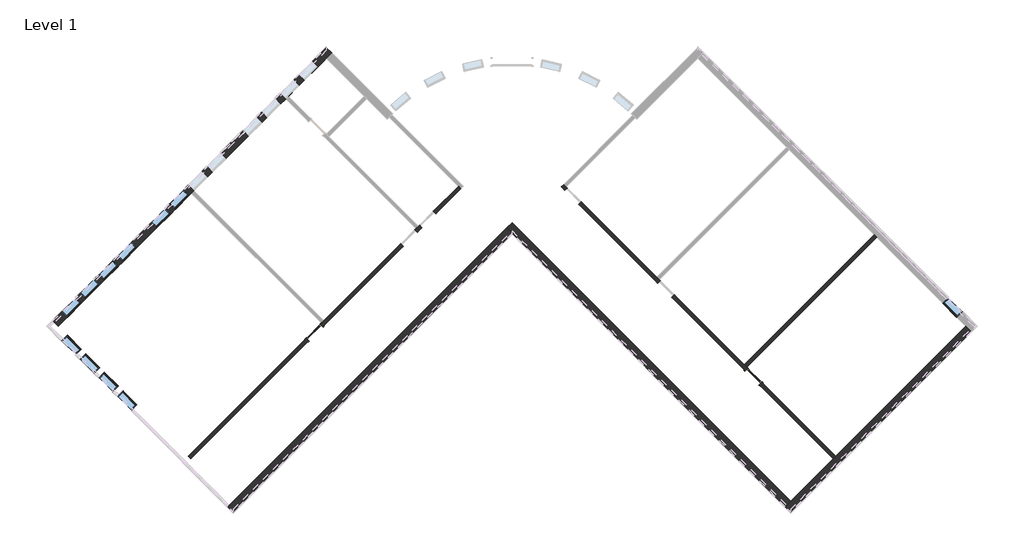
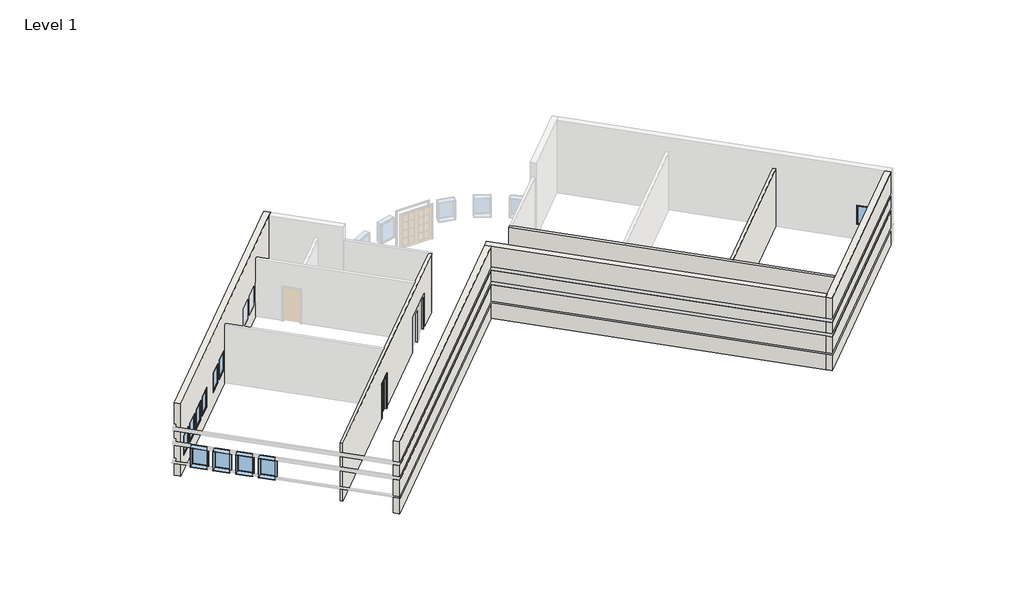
# One storey, part 1 of 3: 11 windows, 7 walls, 2 doors.
"""IFC4 building model written with IfcOpenShell, lengths in millimetres."""

from ifc_helpers import new_model, si_unit, origin, origin_with_axes, place, context, project, spatial, polyline, outline, extrude, faceted_brep, transform, mapped, element, save
from components import door_b81abb0e, door_5f5b55da, window_15c49d37, window_0e2fc6ce

model = new_model("IFC4")

# Units and contexts
model_context = context("Model", 3, world=origin())
ifc_project = project(units=[si_unit("LENGTHUNIT", "METRE", prefix="MILLI")], contexts=[model_context])

# Site, building, storey
site = spatial("IfcSite", under=ifc_project)
building = spatial("IfcBuilding", under=site)
storey = spatial("IfcBuildingStorey", under=building, Name="Level 1", Elevation=0.0)

# Doors
placement = place(None, origin())
door_shape = door_b81abb0e(model_context)
element("IfcDoor", 1, ObjectType="Single-Glass 1 : 36\" x 84\"", at=placement, inside=storey, context=model_context, shape_type="MappedRepresentation", body=[
    mapped(door_shape, transform((-12027.7718255, -1647.4849877, 0.0), x_axis=(0.7071067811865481, 0.7071067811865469, 0.0), y_axis=(-0.7071067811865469, 0.7071067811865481, 0.0), z_axis=(0.0, 0.0, 1.0))),
])
door_2_shape = door_5f5b55da(model_context)
element("IfcDoor", 2, ObjectType="Single-Glass 1 : 36\" x 84\"", at=placement, inside=storey, context=model_context, shape_type="MappedRepresentation", body=[
    mapped(door_2_shape, transform((8339.3312748, -3695.1011656, 0.0), x_axis=(-0.7071067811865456, 0.7071067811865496, 0.0), y_axis=(-0.7071067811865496, -0.7071067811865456, 0.0), z_axis=(0.0, 0.0, 1.0))),
])

# Walls
element("IfcWall", 3, ObjectType="Exterior - Split Face and CMU on Mtl. Stud", at=placement, inside=storey, context=model_context, shape_type="Brep", body=[
    faceted_brep([(18186.1821115, -1357.9895101, 0.0), (12149.2049342, -7394.9666875, 0.0), (12039.1967967, -7504.974825, 0.0), (10063.54045, -9480.6311716, 0.0), (9814.3383427, -9729.833279, 0.0), (9814.3383427, -9729.833279, 1016.0), (9879.4451996, -9664.7264221, 1016.0), (9879.4451996, -9664.7264221, 1085.85), (9814.3383427, -9729.833279, 1085.85), (9814.3383427, -9729.833279, 2133.6), (9879.4451996, -9664.7264221, 2133.6), (9879.4451996, -9664.7264221, 2336.8), (9814.3383427, -9729.833279, 2336.8), (9814.3383427, -9729.833279, 3048.0), (9879.4451996, -9664.7264221, 3048.0), (9879.4451996, -9664.7264221, 3251.2), (9814.3383427, -9729.833279, 3251.2), (9814.3383427, -9729.833279, 4572.0), (10063.54045, -9480.6311716, 4572.0), (18186.1821115, -1357.9895101, 4572.0), (18435.3842189, -1607.1916175, 4572.0), (10063.54045, -9979.0353863, 4572.0), (10063.54045, -9979.0353863, 3251.2), (18435.3842189, -1607.1916175, 3251.2), (10063.54045, -9979.0353863, 0.0), (18435.3842189, -1607.1916175, 0.0), (18435.3842189, -1607.1916175, 1016.0), (10063.54045, -9979.0353863, 1016.0), (10063.54045, -9979.0353863, 1085.85), (18435.3842189, -1607.1916175, 1085.85), (18435.3842189, -1607.1916175, 2133.6), (10063.54045, -9979.0353863, 2133.6), (10063.54045, -9979.0353863, 2336.8), (18435.3842189, -1607.1916175, 2336.8), (18435.3842189, -1607.1916175, 3048.0), (10063.54045, -9979.0353863, 3048.0), (9998.4335932, -9913.9285294, 0.0), (18370.277362, -1542.0847606, 3251.2), (18370.277362, -1542.0847606, 3048.0), (18370.277362, -1542.0847606, 2336.8), (18370.277362, -1542.0847606, 2133.6), (18370.277362, -1542.0847606, 1085.85), (18370.277362, -1542.0847606, 1016.0), (18370.277362, -1542.0847606, 0.0), (10063.54045, -9848.8216726, 1085.85), (10063.54045, -9848.8216726, 1016.0), (10063.54045, -9848.8216726, 2133.6), (10063.54045, -9848.8216726, 2336.8), (10063.54045, -9848.8216726, 3048.0), (10063.54045, -9848.8216726, 3251.2)], [[[0, 1, 2, 3, 4, 5, 6, 7, 8, 9, 10, 11, 12, 13, 14, 15, 16, 17, 18, 19]], [[20, 21, 22, 23]], [[24, 25, 26, 27]], [[28, 29, 30, 31]], [[32, 33, 34, 35]], [[19, 18, 17, 21, 20]], [[21, 17, 16, 22]], [[4, 36, 24, 27, 5]], [[8, 28, 31, 9]], [[12, 32, 35, 13]], [[0, 19, 20, 23, 37, 38, 34, 33, 39, 40, 30, 29, 41, 42, 26, 25, 43]], [[4, 3, 2, 1, 0, 43, 36]], [[43, 25, 24, 36]], [[7, 44, 41, 29, 28, 8]], [[42, 45, 6, 5, 27, 26]], [[44, 45, 42, 41]], [[45, 44, 7, 6]], [[40, 46, 10, 9, 31, 30]], [[11, 47, 39, 33, 32, 12]], [[47, 46, 40, 39]], [[46, 47, 11, 10]], [[38, 48, 14, 13, 35, 34]], [[15, 49, 37, 23, 22, 16]], [[49, 48, 38, 37]], [[48, 49, 15, 14]]]),
])
element("IfcWall", 4, ObjectType="Exterior - Split Face and CMU on Mtl. Stud", at=placement, inside=storey, context=model_context, shape_type="Brep", body=[
    faceted_brep([(10063.54045, -9480.6311716, 0.0), (-2868.0283643, 3450.9376427, 0.0), (-2868.0283643, 3450.9376427, 4572.0), (10063.54045, -9480.6311716, 4572.0), (9814.3383427, -9729.833279, 4572.0), (-2868.0283643, 2952.533428, 4572.0), (-3117.2304717, 3201.7355354, 4572.0), (-3117.2304717, 3201.7355354, 0.0), (-2868.0283643, 2952.533428, 0.0), (9814.3383427, -9729.833279, 0.0), (9814.3383427, -9729.833279, 1016.0), (-2868.0283643, 2952.533428, 1016.0), (-2933.1352212, 3017.6402849, 1016.0), (-2933.1352212, 3017.6402849, 1085.85), (-2868.0283643, 2952.533428, 1085.85), (9814.3383427, -9729.833279, 1085.85), (9814.3383427, -9729.833279, 2133.6), (-2868.0283643, 2952.533428, 2133.6), (-2933.1352212, 3017.6402849, 2133.6), (-2933.1352212, 3017.6402849, 2336.8), (-2868.0283643, 2952.533428, 2336.8), (9814.3383427, -9729.833279, 2336.8), (9814.3383427, -9729.833279, 3048.0), (-2868.0283643, 2952.533428, 3048.0), (-2933.1352212, 3017.6402849, 3048.0), (-2933.1352212, 3017.6402849, 3251.2), (-2868.0283643, 2952.533428, 3251.2), (9814.3383427, -9729.833279, 3251.2), (-3052.1236148, 3266.8423923, 0.0), (9879.4451996, -9664.7264221, 3251.2), (9879.4451996, -9664.7264221, 3048.0), (9879.4451996, -9664.7264221, 2336.8), (9879.4451996, -9664.7264221, 2133.6), (9879.4451996, -9664.7264221, 1085.85), (9879.4451996, -9664.7264221, 1016.0), (9879.4451996, -9664.7264221, 0.0), (-2868.0283643, 3082.7471418, 1085.85), (-2868.0283643, 3082.7471418, 1016.0), (-2868.0283643, 3082.7471418, 2133.6), (-2868.0283643, 3082.7471418, 2336.8), (-2868.0283643, 3082.7471418, 3048.0), (-2868.0283643, 3082.7471418, 3251.2)], [[[0, 1, 2, 3]], [[4, 5, 6, 7, 8, 9, 10, 11, 12, 13, 14, 15, 16, 17, 18, 19, 20, 21, 22, 23, 24, 25, 26, 27]], [[3, 2, 6, 5, 4]], [[2, 1, 28, 7, 6]], [[0, 3, 4, 27, 29, 30, 22, 21, 31, 32, 16, 15, 33, 34, 10, 9, 35]], [[1, 0, 35, 28]], [[35, 9, 8, 7, 28]], [[13, 36, 33, 15, 14]], [[34, 37, 12, 11, 10]], [[36, 37, 34, 33]], [[37, 36, 13, 12]], [[32, 38, 18, 17, 16]], [[19, 39, 31, 21, 20]], [[39, 38, 32, 31]], [[38, 39, 19, 18]], [[30, 40, 24, 23, 22]], [[25, 41, 29, 27, 26]], [[41, 40, 30, 29]], [[40, 41, 25, 24]]]),
])
element("IfcWall", 5, ObjectType="Exterior - Split Face and CMU on Mtl. Stud", at=placement, inside=storey, context=model_context, shape_type="Brep", body=[
    faceted_brep([(-3117.2304717, 3201.7355354, 0.0), (-15799.5971786, -9480.6311716, 0.0), (-16048.799286, -9729.833279, 0.0), (-16048.799286, -9729.833279, 1016.0), (-15983.6924291, -9664.7264221, 1016.0), (-15983.6924291, -9664.7264221, 1085.85), (-16048.799286, -9729.833279, 1085.85), (-16048.799286, -9729.833279, 2133.6), (-15983.6924291, -9664.7264221, 2133.6), (-15983.6924291, -9664.7264221, 2336.8), (-16048.799286, -9729.833279, 2336.8), (-16048.799286, -9729.833279, 3048.0), (-15983.6924291, -9664.7264221, 3048.0), (-15983.6924291, -9664.7264221, 3251.2), (-16048.799286, -9729.833279, 3251.2), (-16048.799286, -9729.833279, 4572.0), (-15799.5971786, -9480.6311716, 4572.0), (-3117.2304717, 3201.7355354, 4572.0), (-2868.0283643, 2952.533428, 4572.0), (-15799.5971786, -9979.0353863, 4572.0), (-15799.5971786, -9979.0353863, 3251.2), (-2868.0283643, 2952.533428, 3251.2), (-15799.5971786, -9979.0353863, 0.0), (-2868.0283643, 2952.533428, 0.0), (-2868.0283643, 2952.533428, 1016.0), (-15799.5971786, -9979.0353863, 1016.0), (-15799.5971786, -9979.0353863, 1085.85), (-2868.0283643, 2952.533428, 1085.85), (-2868.0283643, 2952.533428, 2133.6), (-15799.5971786, -9979.0353863, 2133.6), (-15799.5971786, -9979.0353863, 2336.8), (-2868.0283643, 2952.533428, 2336.8), (-2868.0283643, 2952.533428, 3048.0), (-15799.5971786, -9979.0353863, 3048.0), (-15864.7040355, -9913.9285294, 0.0), (-2933.1352212, 3017.6402849, 3251.2), (-2933.1352212, 3017.6402849, 3048.0), (-2933.1352212, 3017.6402849, 2336.8), (-2933.1352212, 3017.6402849, 2133.6), (-2933.1352212, 3017.6402849, 1085.85), (-2933.1352212, 3017.6402849, 1016.0), (-2933.1352212, 3017.6402849, 0.0), (-15799.5971786, -9848.8216726, 1085.85), (-15799.5971786, -9848.8216726, 1016.0), (-15799.5971786, -9848.8216726, 2133.6), (-15799.5971786, -9848.8216726, 2336.8), (-15799.5971786, -9848.8216726, 3048.0), (-15799.5971786, -9848.8216726, 3251.2)], [[[0, 1, 2, 3, 4, 5, 6, 7, 8, 9, 10, 11, 12, 13, 14, 15, 16, 17]], [[18, 19, 20, 21]], [[22, 23, 24, 25]], [[26, 27, 28, 29]], [[30, 31, 32, 33]], [[17, 16, 15, 19, 18]], [[19, 15, 14, 20]], [[2, 34, 22, 25, 3]], [[6, 26, 29, 7]], [[10, 30, 33, 11]], [[0, 17, 18, 21, 35, 36, 32, 31, 37, 38, 28, 27, 39, 40, 24, 23, 41]], [[2, 1, 0, 41, 34]], [[41, 23, 22, 34]], [[5, 42, 39, 27, 26, 6]], [[40, 43, 4, 3, 25, 24]], [[42, 43, 40, 39]], [[43, 42, 5, 4]], [[38, 44, 8, 7, 29, 28]], [[9, 45, 37, 31, 30, 10]], [[45, 44, 38, 37]], [[44, 45, 9, 8]], [[36, 46, 12, 11, 33, 32]], [[13, 47, 35, 21, 20, 14]], [[47, 46, 36, 35]], [[46, 47, 13, 12]]]),
])
element("IfcWall", 6, ObjectType="Exterior - Split Face and CMU on Mtl. Stud", at=placement, inside=storey, context=model_context, shape_type="Brep", body=[
    faceted_brep([(-23922.2388402, -1357.9895101, 0.0), (-17743.7048466, 4820.5444835, 0.0), (-17633.6967091, 4930.552621, 0.0), (-13359.2125777, 9205.0367523, 0.0), (-13249.2044403, 9315.0448898, 0.0), (-11489.0742405, 11075.1750895, 0.0), (-11239.8721332, 11324.3771969, 0.0), (-11239.8721332, 11324.3771969, 1016.0), (-11304.9789901, 11259.27034, 1016.0), (-11304.9789901, 11259.27034, 1085.85), (-11239.8721332, 11324.3771969, 1085.85), (-11239.8721332, 11324.3771969, 2133.6), (-11304.9789901, 11259.27034, 2133.6), (-11304.9789901, 11259.27034, 2336.8), (-11239.8721332, 11324.3771969, 2336.8), (-11239.8721332, 11324.3771969, 3048.0), (-11304.9789901, 11259.27034, 3048.0), (-11304.9789901, 11259.27034, 3251.2), (-11239.8721332, 11324.3771969, 3251.2), (-11239.8721332, 11324.3771969, 4572.0), (-11489.0742405, 11075.1750895, 4572.0), (-23922.2388402, -1357.9895101, 4572.0), (-23508.0245266, -943.7751965, 914.4), (-23508.0245266, -943.7751965, 2133.6), (-22861.4460859, -297.1967558, 2133.6), (-22861.4460859, -297.1967558, 914.4), (-22645.9199389, -81.6706089, 914.4), (-22645.9199389, -81.6706089, 2133.6), (-21999.3414982, 564.9078318, 2133.6), (-21999.3414982, 564.9078318, 914.4), (-20921.7107637, 1642.5385664, 914.4), (-20921.7107637, 1642.5385664, 2133.6), (-20275.132323, 2289.1170071, 2133.6), (-20275.132323, 2289.1170071, 914.4), (-21783.8153513, 780.4339787, 914.4), (-21783.8153513, 780.4339787, 2133.6), (-21137.2369106, 1427.0124195, 2133.6), (-21137.2369106, 1427.0124195, 914.4), (-11869.3770291, 10694.8723009, 2133.6), (-11869.3770291, 10694.8723009, 914.4), (-12515.9554698, 10048.2938602, 914.4), (-12515.9554698, 10048.2938602, 2133.6), (-12731.4816167, 9832.7677133, 2133.6), (-12731.4816167, 9832.7677133, 914.4), (-13378.0600575, 9186.1892726, 914.4), (-13378.0600575, 9186.1892726, 2133.6), (-13593.5862044, 8970.6631257, 2133.6), (-13593.5862044, 8970.6631257, 914.4), (-14240.1646451, 8324.084685, 914.4), (-14240.1646451, 8324.084685, 2133.6), (-14455.690792, 8108.5585381, 2133.6), (-14455.690792, 8108.5585381, 914.4), (-15102.2692327, 7461.9800974, 914.4), (-15102.2692327, 7461.9800974, 2133.6), (-19359.6176228, 3204.6317073, 914.4), (-19359.6176228, 3204.6317073, 2133.6), (-18713.0391821, 3851.210148, 2133.6), (-18713.0391821, 3851.210148, 914.4), (-18497.5130352, 4066.7362949, 914.4), (-18497.5130352, 4066.7362949, 2133.6), (-17850.9345944, 4713.3147356, 2133.6), (-17850.9345944, 4713.3147356, 914.4), (-17635.4084475, 4928.8408825, 914.4), (-17635.4084475, 4928.8408825, 2133.6), (-16988.8300068, 5575.4193232, 2133.6), (-16988.8300068, 5575.4193232, 914.4), (-16773.3038599, 5790.9454701, 914.4), (-16773.3038599, 5790.9454701, 2133.6), (-16126.7254192, 6437.5239109, 2133.6), (-16126.7254192, 6437.5239109, 914.4), (-24171.4409475, -1108.7874027, 4572.0), (-11489.0742405, 11573.5793042, 4572.0), (-11489.0742405, 11573.5793042, 3251.2), (-24171.4409475, -1108.7874027, 3251.2), (-11489.0742405, 11573.5793042, 0.0), (-24171.4409475, -1108.7874027, 0.0), (-24171.4409475, -1108.7874027, 1016.0), (-23757.2266339, -694.5730891, 1016.0), (-23757.2266339, -694.5730891, 914.4), (-23110.6481932, -47.9946484, 914.4), (-23110.6481932, -47.9946484, 1016.0), (-22895.1220463, 167.5314985, 1016.0), (-22895.1220463, 167.5314985, 914.4), (-22248.5436056, 814.1099392, 914.4), (-22248.5436056, 814.1099392, 1016.0), (-22033.0174587, 1029.6360861, 1016.0), (-22033.0174587, 1029.6360861, 914.4), (-21386.439018, 1676.2145268, 914.4), (-21386.439018, 1676.2145268, 1016.0), (-21170.9128711, 1891.7406737, 1016.0), (-21170.9128711, 1891.7406737, 914.4), (-20524.3344303, 2538.3191144, 914.4), (-20524.3344303, 2538.3191144, 1016.0), (-19608.8197301, 3453.8338146, 1016.0), (-19608.8197301, 3453.8338146, 914.4), (-18962.2412894, 4100.4122553, 914.4), (-18962.2412894, 4100.4122553, 1016.0), (-18746.7151425, 4315.9384023, 1016.0), (-18746.7151425, 4315.9384023, 914.4), (-18100.1367018, 4962.516843, 914.4), (-18100.1367018, 4962.516843, 1016.0), (-17884.6105549, 5178.0429899, 1016.0), (-17884.6105549, 5178.0429899, 914.4), (-17238.0321142, 5824.6214306, 914.4), (-17238.0321142, 5824.6214306, 1016.0), (-17022.5059673, 6040.1475775, 1016.0), (-17022.5059673, 6040.1475775, 914.4), (-16375.9275266, 6686.7260182, 914.4), (-16375.9275266, 6686.7260182, 1016.0), (-15351.4713401, 7711.1822047, 1016.0), (-15351.4713401, 7711.1822047, 914.4), (-14704.8928993, 8357.7606454, 914.4), (-14704.8928993, 8357.7606454, 1016.0), (-14489.3667524, 8573.2867923, 1016.0), (-14489.3667524, 8573.2867923, 914.4), (-13842.7883117, 9219.8652331, 914.4), (-13842.7883117, 9219.8652331, 1016.0), (-13627.2621648, 9435.39138, 1016.0), (-13627.2621648, 9435.39138, 914.4), (-12980.6837241, 10081.9698207, 914.4), (-12980.6837241, 10081.9698207, 1016.0), (-12765.1575772, 10297.4959676, 1016.0), (-12765.1575772, 10297.4959676, 914.4), (-12118.5791365, 10944.0744083, 914.4), (-12118.5791365, 10944.0744083, 1016.0), (-11489.0742405, 11573.5793042, 1016.0), (-23110.6481932, -47.9946484, 2133.6), (-23757.2266339, -694.5730891, 2133.6), (-23757.2266339, -694.5730891, 2336.8), (-24171.4409475, -1108.7874027, 2336.8), (-24171.4409475, -1108.7874027, 3048.0), (-11489.0742405, 11573.5793042, 3048.0), (-11489.0742405, 11573.5793042, 2336.8), (-12118.5791365, 10944.0744083, 2336.8), (-12118.5791365, 10944.0744083, 2133.6), (-12765.1575772, 10297.4959676, 2133.6), (-12765.1575772, 10297.4959676, 2336.8), (-12980.6837241, 10081.9698207, 2336.8), (-12980.6837241, 10081.9698207, 2133.6), (-13627.2621648, 9435.39138, 2133.6), (-13627.2621648, 9435.39138, 2336.8), (-13842.7883117, 9219.8652331, 2336.8), (-13842.7883117, 9219.8652331, 2133.6), (-14489.3667524, 8573.2867923, 2133.6), (-14489.3667524, 8573.2867923, 2336.8), (-14704.8928993, 8357.7606454, 2336.8), (-14704.8928993, 8357.7606454, 2133.6), (-15351.4713401, 7711.1822047, 2133.6), (-15351.4713401, 7711.1822047, 2336.8), (-16375.9275266, 6686.7260182, 2336.8), (-16375.9275266, 6686.7260182, 2133.6), (-17022.5059673, 6040.1475775, 2133.6), (-17022.5059673, 6040.1475775, 2336.8), (-17238.0321142, 5824.6214306, 2336.8), (-17238.0321142, 5824.6214306, 2133.6), (-17884.6105549, 5178.0429899, 2133.6), (-17884.6105549, 5178.0429899, 2336.8), (-18100.1367018, 4962.516843, 2336.8), (-18100.1367018, 4962.516843, 2133.6), (-18746.7151425, 4315.9384023, 2133.6), (-18746.7151425, 4315.9384023, 2336.8), (-18962.2412894, 4100.4122553, 2336.8), (-18962.2412894, 4100.4122553, 2133.6), (-19608.8197301, 3453.8338146, 2133.6), (-19608.8197301, 3453.8338146, 2336.8), (-20524.3344303, 2538.3191144, 2336.8), (-20524.3344303, 2538.3191144, 2133.6), (-21170.9128711, 1891.7406737, 2133.6), (-21170.9128711, 1891.7406737, 2336.8), (-21386.439018, 1676.2145268, 2336.8), (-21386.439018, 1676.2145268, 2133.6), (-22033.0174587, 1029.6360861, 2133.6), (-22033.0174587, 1029.6360861, 2336.8), (-22248.5436056, 814.1099392, 2336.8), (-22248.5436056, 814.1099392, 2133.6), (-22895.1220463, 167.5314985, 2133.6), (-22895.1220463, 167.5314985, 2336.8), (-23110.6481932, -47.9946484, 2336.8), (-23757.2266339, -694.5730891, 1085.85), (-24171.4409475, -1108.7874027, 1085.85), (-24171.4409475, -1108.7874027, 2133.6), (-23110.6481932, -47.9946484, 1085.85), (-22895.1220463, 167.5314985, 1085.85), (-22248.5436056, 814.1099392, 1085.85), (-22033.0174587, 1029.6360861, 1085.85), (-21170.9128711, 1891.7406737, 1085.85), (-21386.439018, 1676.2145268, 1085.85), (-20524.3344303, 2538.3191144, 1085.85), (-19608.8197301, 3453.8338146, 1085.85), (-12765.1575772, 10297.4959676, 1085.85), (-12980.6837241, 10081.9698207, 1085.85), (-12118.5791365, 10944.0744083, 1085.85), (-11489.0742405, 11573.5793042, 2133.6), (-11489.0742405, 11573.5793042, 1085.85), (-13627.2621648, 9435.39138, 1085.85), (-13842.7883117, 9219.8652331, 1085.85), (-14489.3667524, 8573.2867923, 1085.85), (-14704.8928993, 8357.7606454, 1085.85), (-15351.4713401, 7711.1822047, 1085.85), (-16375.9275266, 6686.7260182, 1085.85), (-18962.2412894, 4100.4122553, 1085.85), (-18746.7151425, 4315.9384023, 1085.85), (-18100.1367018, 4962.516843, 1085.85), (-17884.6105549, 5178.0429899, 1085.85), (-17238.0321142, 5824.6214306, 1085.85), (-17022.5059673, 6040.1475775, 1085.85), (-11423.9673837, 11508.4724474, 0.0), (-24106.3340906, -1173.8942596, 3251.2), (-24106.3340906, -1173.8942596, 3048.0), (-24106.3340906, -1173.8942596, 2336.8), (-24106.3340906, -1173.8942596, 2133.6), (-24106.3340906, -1173.8942596, 1085.85), (-24106.3340906, -1173.8942596, 1016.0), (-24106.3340906, -1173.8942596, 0.0), (-23692.119777, -759.679946, 1016.0), (-23692.119777, -759.679946, 1085.85), (-23692.119777, -759.679946, 2133.6), (-23045.5413363, -113.1015053, 2133.6), (-23045.5413363, -113.1015053, 1085.85), (-23045.5413363, -113.1015053, 1016.0), (-22830.0151894, 102.4246416, 1016.0), (-22830.0151894, 102.4246416, 1085.85), (-22830.0151894, 102.4246416, 2133.6), (-22183.4367487, 749.0030823, 2133.6), (-22183.4367487, 749.0030823, 1085.85), (-22183.4367487, 749.0030823, 1016.0), (-21105.8060142, 1826.6338168, 1016.0), (-21105.8060142, 1826.6338168, 1085.85), (-21105.8060142, 1826.6338168, 2133.6), (-20459.2275735, 2473.2122576, 2133.6), (-20459.2275735, 2473.2122576, 1085.85), (-20459.2275735, 2473.2122576, 1016.0), (-21967.9106018, 964.5292292, 1016.0), (-21967.9106018, 964.5292292, 1085.85), (-21967.9106018, 964.5292292, 2133.6), (-21321.3321611, 1611.1076699, 2133.6), (-21321.3321611, 1611.1076699, 1085.85), (-21321.3321611, 1611.1076699, 1016.0), (-12053.4722796, 10878.9675514, 2133.6), (-12053.4722796, 10878.9675514, 1085.85), (-12053.4722796, 10878.9675514, 1016.0), (-12700.0507203, 10232.3891107, 1016.0), (-12700.0507203, 10232.3891107, 1085.85), (-12700.0507203, 10232.3891107, 2133.6), (-12915.5768672, 10016.8629638, 2133.6), (-12915.5768672, 10016.8629638, 1085.85), (-12915.5768672, 10016.8629638, 1016.0), (-13562.1553079, 9370.2845231, 1016.0), (-13562.1553079, 9370.2845231, 1085.85), (-13562.1553079, 9370.2845231, 2133.6), (-13777.6814548, 9154.7583762, 2133.6), (-13777.6814548, 9154.7583762, 1085.85), (-13777.6814548, 9154.7583762, 1016.0), (-14424.2598956, 8508.1799355, 1016.0), (-14424.2598956, 8508.1799355, 1085.85), (-14424.2598956, 8508.1799355, 2133.6), (-14639.7860425, 8292.6537886, 2133.6), (-14639.7860425, 8292.6537886, 1085.85), (-14639.7860425, 8292.6537886, 1016.0), (-15286.3644832, 7646.0753478, 1016.0), (-15286.3644832, 7646.0753478, 1085.85), (-15286.3644832, 7646.0753478, 2133.6), (-19543.7128733, 3388.7269578, 1016.0), (-19543.7128733, 3388.7269578, 1085.85), (-19543.7128733, 3388.7269578, 2133.6), (-18897.1344326, 4035.3053985, 2133.6), (-18897.1344326, 4035.3053985, 1085.85), (-18897.1344326, 4035.3053985, 1016.0), (-18681.6082856, 4250.8315454, 1016.0), (-18681.6082856, 4250.8315454, 1085.85), (-18681.6082856, 4250.8315454, 2133.6), (-18035.0298449, 4897.4099861, 2133.6), (-18035.0298449, 4897.4099861, 1085.85), (-18035.0298449, 4897.4099861, 1016.0), (-17819.503698, 5112.936133, 1016.0), (-17819.503698, 5112.936133, 1085.85), (-17819.503698, 5112.936133, 2133.6), (-17172.9252573, 5759.5145737, 2133.6), (-17172.9252573, 5759.5145737, 1085.85), (-17172.9252573, 5759.5145737, 1016.0), (-16957.3991104, 5975.0407206, 1016.0), (-16957.3991104, 5975.0407206, 1085.85), (-16957.3991104, 5975.0407206, 2133.6), (-16310.8206697, 6621.6191613, 2133.6), (-16310.8206697, 6621.6191613, 1085.85), (-16310.8206697, 6621.6191613, 1016.0), (-11489.0742405, 11443.3655905, 1085.85), (-11489.0742405, 11443.3655905, 1016.0), (-23692.119777, -759.679946, 2133.6), (-23692.119777, -759.679946, 2336.8), (-23045.5413363, -113.1015053, 2133.6), (-23045.5413363, -113.1015053, 2336.8), (-22830.0151894, 102.4246416, 2336.8), (-22830.0151894, 102.4246416, 2133.6), (-22183.4367487, 749.0030823, 2133.6), (-22183.4367487, 749.0030823, 2336.8), (-21967.9106018, 964.5292292, 2336.8), (-21967.9106018, 964.5292292, 2133.6), (-21321.3321611, 1611.1076699, 2133.6), (-21321.3321611, 1611.1076699, 2336.8), (-21105.8060142, 1826.6338168, 2336.8), (-21105.8060142, 1826.6338168, 2133.6), (-20459.2275735, 2473.2122576, 2133.6), (-20459.2275735, 2473.2122576, 2336.8), (-19543.7128733, 3388.7269578, 2336.8), (-19543.7128733, 3388.7269578, 2133.6), (-18897.1344326, 4035.3053985, 2133.6), (-18897.1344326, 4035.3053985, 2336.8), (-18681.6082856, 4250.8315454, 2336.8), (-18681.6082856, 4250.8315454, 2133.6), (-18035.0298449, 4897.4099861, 2133.6), (-18035.0298449, 4897.4099861, 2336.8), (-17819.503698, 5112.936133, 2336.8), (-17819.503698, 5112.936133, 2133.6), (-17172.9252573, 5759.5145737, 2133.6), (-17172.9252573, 5759.5145737, 2336.8), (-16957.3991104, 5975.0407206, 2336.8), (-16957.3991104, 5975.0407206, 2133.6), (-16310.8206697, 6621.6191613, 2133.6), (-16310.8206697, 6621.6191613, 2336.8), (-15286.3644832, 7646.0753478, 2336.8), (-15286.3644832, 7646.0753478, 2133.6), (-14639.7860425, 8292.6537886, 2133.6), (-14639.7860425, 8292.6537886, 2336.8), (-14424.2598956, 8508.1799355, 2336.8), (-14424.2598956, 8508.1799355, 2133.6), (-13777.6814548, 9154.7583762, 2133.6), (-13777.6814548, 9154.7583762, 2336.8), (-13562.1553079, 9370.2845231, 2336.8), (-13562.1553079, 9370.2845231, 2133.6), (-12915.5768672, 10016.8629638, 2133.6), (-12915.5768672, 10016.8629638, 2336.8), (-12700.0507203, 10232.3891107, 2336.8), (-12700.0507203, 10232.3891107, 2133.6), (-12053.4722796, 10878.9675514, 2133.6), (-12053.4722796, 10878.9675514, 2336.8), (-11489.0742405, 11443.3655905, 2133.6), (-11489.0742405, 11443.3655905, 2336.8), (-11489.0742405, 11443.3655905, 3048.0), (-11489.0742405, 11443.3655905, 3251.2)], [[[0, 1, 2, 3, 4, 5, 6, 7, 8, 9, 10, 11, 12, 13, 14, 15, 16, 17, 18, 19, 20, 21], [22, 23, 24, 25], [26, 27, 28, 29], [30, 31, 32, 33], [34, 35, 36, 37], [38, 39, 40, 41], [42, 43, 44, 45], [46, 47, 48, 49], [50, 51, 52, 53], [54, 55, 56, 57], [58, 59, 60, 61], [62, 63, 64, 65], [66, 67, 68, 69]], [[70, 71, 72, 73]], [[74, 75, 76, 77, 78, 79, 80, 81, 82, 83, 84, 85, 86, 87, 88, 89, 90, 91, 92, 93, 94, 95, 96, 97, 98, 99, 100, 101, 102, 103, 104, 105, 106, 107, 108, 109, 110, 111, 112, 113, 114, 115, 116, 117, 118, 119, 120, 121, 122, 123, 124, 125]], [[126, 127, 128, 129, 130, 131, 132, 133, 134, 135, 136, 137, 138, 139, 140, 141, 142, 143, 144, 145, 146, 147, 148, 149, 150, 151, 152, 153, 154, 155, 156, 157, 158, 159, 160, 161, 162, 163, 164, 165, 166, 167, 168, 169, 170, 171, 172, 173, 174, 175, 176, 177]], [[127, 178, 179, 180]], [[181, 126, 175, 182]], [[183, 174, 171, 184]], [[167, 185, 186, 170]], [[187, 166, 163, 188]], [[135, 189, 190, 138]], [[191, 134, 192, 193]], [[139, 194, 195, 142]], [[143, 196, 197, 146]], [[147, 198, 199, 150]], [[200, 162, 159, 201]], [[202, 158, 155, 203]], [[204, 154, 151, 205]], [[21, 20, 19, 71, 70]], [[71, 19, 18, 72]], [[6, 206, 74, 125, 7]], [[10, 193, 192, 11]], [[14, 132, 131, 15]], [[0, 21, 70, 73, 207, 208, 130, 129, 209, 210, 180, 179, 211, 212, 76, 75, 213]], [[6, 5, 4, 3, 2, 1, 0, 213, 206]], [[213, 75, 74, 206]], [[23, 22, 78, 77, 214, 215, 178, 127, 216]], [[79, 78, 22, 25]], [[25, 24, 217, 126, 181, 218, 219, 80, 79]], [[127, 126, 217, 24, 23, 216]], [[27, 26, 82, 81, 220, 221, 182, 175, 222]], [[83, 82, 26, 29]], [[29, 28, 223, 174, 183, 224, 225, 84, 83]], [[175, 174, 223, 28, 27, 222]], [[31, 30, 90, 89, 226, 227, 185, 167, 228]], [[91, 90, 30, 33]], [[33, 32, 229, 166, 187, 230, 231, 92, 91]], [[167, 166, 229, 32, 31, 228]], [[35, 34, 86, 85, 232, 233, 184, 171, 234]], [[87, 86, 34, 37]], [[37, 36, 235, 170, 186, 236, 237, 88, 87]], [[171, 170, 235, 36, 35, 234]], [[39, 38, 238, 134, 191, 239, 240, 124, 123]], [[40, 39, 123, 122]], [[41, 40, 122, 121, 241, 242, 189, 135, 243]], [[38, 41, 243, 135, 134, 238]], [[43, 42, 244, 138, 190, 245, 246, 120, 119]], [[44, 43, 119, 118]], [[45, 44, 118, 117, 247, 248, 194, 139, 249]], [[42, 45, 249, 139, 138, 244]], [[47, 46, 250, 142, 195, 251, 252, 116, 115]], [[48, 47, 115, 114]], [[49, 48, 114, 113, 253, 254, 196, 143, 255]], [[46, 49, 255, 143, 142, 250]], [[51, 50, 256, 146, 197, 257, 258, 112, 111]], [[52, 51, 111, 110]], [[53, 52, 110, 109, 259, 260, 198, 147, 261]], [[50, 53, 261, 147, 146, 256]], [[55, 54, 94, 93, 262, 263, 188, 163, 264]], [[95, 94, 54, 57]], [[57, 56, 265, 162, 200, 266, 267, 96, 95]], [[163, 162, 265, 56, 55, 264]], [[59, 58, 98, 97, 268, 269, 201, 159, 270]], [[99, 98, 58, 61]], [[61, 60, 271, 158, 202, 272, 273, 100, 99]], [[159, 158, 271, 60, 59, 270]], [[63, 62, 102, 101, 274, 275, 203, 155, 276]], [[103, 102, 62, 65]], [[65, 64, 277, 154, 204, 278, 279, 104, 103]], [[155, 154, 277, 64, 63, 276]], [[67, 66, 106, 105, 280, 281, 205, 151, 282]], [[107, 106, 66, 69]], [[69, 68, 283, 150, 199, 284, 285, 108, 107]], [[151, 150, 283, 68, 67, 282]], [[215, 211, 179, 178]], [[212, 214, 77, 76]], [[211, 215, 214, 212]], [[221, 218, 181, 182]], [[219, 220, 81, 80]], [[218, 221, 220, 219]], [[233, 224, 183, 184]], [[225, 232, 85, 84]], [[224, 233, 232, 225]], [[227, 236, 186, 185]], [[237, 226, 89, 88]], [[236, 227, 226, 237]], [[263, 230, 187, 188]], [[231, 262, 93, 92]], [[230, 263, 262, 231]], [[269, 266, 200, 201]], [[267, 268, 97, 96]], [[266, 269, 268, 267]], [[275, 272, 202, 203]], [[273, 274, 101, 100]], [[272, 275, 274, 273]], [[281, 278, 204, 205]], [[279, 280, 105, 104]], [[278, 281, 280, 279]], [[260, 284, 199, 198]], [[285, 259, 109, 108]], [[284, 260, 259, 285]], [[254, 257, 197, 196]], [[258, 253, 113, 112]], [[257, 254, 253, 258]], [[248, 251, 195, 194]], [[252, 247, 117, 116]], [[251, 248, 247, 252]], [[242, 245, 190, 189]], [[246, 241, 121, 120]], [[245, 242, 241, 246]], [[286, 239, 191, 193, 10, 9]], [[240, 287, 8, 7, 125, 124]], [[239, 286, 287, 240]], [[287, 286, 9, 8]], [[288, 127, 180, 210]], [[128, 289, 209, 129]], [[127, 288, 289, 128]], [[289, 288, 210, 209]], [[290, 126, 177, 291]], [[292, 176, 175, 293]], [[126, 290, 293, 175]], [[290, 291, 292, 293]], [[291, 177, 176, 292]], [[294, 174, 173, 295]], [[296, 172, 171, 297]], [[174, 294, 297, 171]], [[294, 295, 296, 297]], [[295, 173, 172, 296]], [[298, 170, 169, 299]], [[300, 168, 167, 301]], [[170, 298, 301, 167]], [[298, 299, 300, 301]], [[299, 169, 168, 300]], [[302, 166, 165, 303]], [[304, 164, 163, 305]], [[166, 302, 305, 163]], [[302, 303, 304, 305]], [[303, 165, 164, 304]], [[306, 162, 161, 307]], [[308, 160, 159, 309]], [[162, 306, 309, 159]], [[306, 307, 308, 309]], [[307, 161, 160, 308]], [[310, 158, 157, 311]], [[312, 156, 155, 313]], [[158, 310, 313, 155]], [[310, 311, 312, 313]], [[311, 157, 156, 312]], [[314, 154, 153, 315]], [[316, 152, 151, 317]], [[154, 314, 317, 151]], [[314, 315, 316, 317]], [[315, 153, 152, 316]], [[318, 150, 149, 319]], [[320, 148, 147, 321]], [[150, 318, 321, 147]], [[318, 319, 320, 321]], [[319, 149, 148, 320]], [[322, 146, 145, 323]], [[324, 144, 143, 325]], [[146, 322, 325, 143]], [[322, 323, 324, 325]], [[323, 145, 144, 324]], [[326, 142, 141, 327]], [[328, 140, 139, 329]], [[142, 326, 329, 139]], [[326, 327, 328, 329]], [[327, 141, 140, 328]], [[330, 138, 137, 331]], [[332, 136, 135, 333]], [[138, 330, 333, 135]], [[330, 331, 332, 333]], [[331, 137, 136, 332]], [[334, 134, 133, 335]], [[134, 334, 336, 12, 11, 192]], [[334, 335, 337, 336]], [[335, 133, 132, 14, 13, 337]], [[336, 337, 13, 12]], [[208, 338, 16, 15, 131, 130]], [[17, 339, 207, 73, 72, 18]], [[339, 338, 208, 207]], [[338, 339, 17, 16]]]),
])
element("IfcWall", 7, ObjectType="Interior - 6 1/8\" Partition (2-hr)", at=placement, inside=storey, context=model_context, shape_type="Brep", body=[
    faceted_brep([(-7264.9862676, 3005.2924327, 0.0), (-7049.4601207, 3220.8185796, 0.0), (-7049.4601207, 3220.8185796, 2133.6), (-6402.88168, 3867.3970204, 2133.6), (-6402.88168, 3867.3970204, 0.0), (-5238.5804157, 5031.6982846, 0.0), (-5238.5804157, 5031.6982846, 3657.6), (-17775.2535253, -7504.974825, 3657.6), (-17775.2535253, -7504.974825, 0.0), (-12296.0569771, -2025.7782768, 0.0), (-12296.0569771, -2025.7782768, 2133.6), (-11649.4785364, -1379.1998361, 2133.6), (-11649.4785364, -1379.1998361, 0.0), (-7911.5647083, 2358.713992, 0.0), (-7911.5647083, 2358.713992, 2133.6), (-7264.9862676, 3005.2924327, 2133.6), (-7159.4682582, 3330.8267171, 2133.6), (-7159.4682582, 3330.8267171, 0.0), (-7212.2272629, 3278.0677124, 0.0), (-7322.2354004, 3168.0595749, 0.0), (-7374.9944051, 3115.3005702, 0.0), (-7374.9944051, 3115.3005702, 2133.6), (-8021.5728458, 2468.7221295, 2133.6), (-8021.5728458, 2468.7221295, 0.0), (-11596.7195317, -1106.4245564, 0.0), (-11706.7276692, -1216.4326939, 0.0), (-11759.4866739, -1269.1916986, 0.0), (-11759.4866739, -1269.1916986, 2133.6), (-12406.0651146, -1915.7701393, 2133.6), (-12406.0651146, -1915.7701393, 0.0), (-17885.2616628, -7394.9666875, 0.0), (-17885.2616628, -7394.9666875, 3657.6), (-11706.7276692, -1216.4326939, 3657.6), (-11596.7195317, -1106.4245564, 3657.6), (-7322.2354004, 3168.0595749, 3657.6), (-7212.2272629, 3278.0677124, 3657.6), (-5348.5885532, 5141.7064221, 3657.6), (-5348.5885532, 5141.7064221, 0.0), (-6512.8898174, 3977.4051578, 0.0), (-6512.8898174, 3977.4051578, 2133.6)], [[[0, 1, 2, 3, 4, 5, 6, 7, 8, 9, 10, 11, 12, 13, 14, 15]], [[16, 17, 18, 19, 20, 21, 22, 23, 24, 25, 26, 27, 28, 29, 30, 31, 32, 33, 34, 35, 36, 37, 38, 39]], [[20, 19, 18, 17, 1, 0]], [[9, 8, 30, 29]], [[13, 12, 26, 25, 24, 23]], [[38, 37, 5, 4]], [[7, 6, 36, 35, 34, 33, 32, 31]], [[8, 7, 31, 30]], [[6, 5, 37, 36]], [[27, 26, 12, 11]], [[28, 27, 11, 10]], [[29, 28, 10, 9]], [[21, 20, 0, 15]], [[22, 21, 15, 14]], [[23, 22, 14, 13]], [[2, 1, 17, 16]], [[3, 2, 16, 39]], [[4, 3, 39, 38]]]),
])
element("IfcWall", 8, ObjectType="Interior - 6 1/8\" Partition (2-hr)", at=placement, inside=storey, context=model_context, shape_type="Brep", body=[
    faceted_brep([(8071.0461232, -3316.8078765, 2133.6), (8071.0461232, -3316.8078765, 0.0), (8018.2871185, -3264.0488718, 0.0), (7908.278981, -3154.0407343, 0.0), (4656.3037331, 97.9345135, 0.0), (4656.3037331, 97.9345135, 2133.6), (4009.7252924, 744.5129543, 2133.6), (4009.7252924, 744.5129543, 0.0), (3956.9662877, 797.271959, 0.0), (3846.9581502, 907.2800964, 0.0), (345.780795, 4408.4574516, 0.0), (345.780795, 4408.4574516, 2133.6), (-300.7976457, 5055.0358924, 2133.6), (-300.7976457, 5055.0358924, 0.0), (-353.5566504, 5107.7948971, 0.0), (-463.5647879, 5217.8030346, 0.0), (-463.5647879, 5217.8030346, 3657.6), (-353.5566504, 5107.7948971, 3657.6), (3846.9581502, 907.2800964, 3657.6), (3956.9662877, 797.271959, 3657.6), (7908.278981, -3154.0407343, 3657.6), (8018.2871185, -3264.0488718, 3657.6), (12149.2049342, -7394.9666875, 3657.6), (12149.2049342, -7394.9666875, 0.0), (8717.6245639, -3963.3863172, 0.0), (8717.6245639, -3963.3863172, 2133.6), (4546.2955957, -12.0736239, 0.0), (7961.0379857, -3426.816014, 0.0), (7961.0379857, -3426.816014, 2133.6), (8607.6164264, -4073.3944547, 2133.6), (8607.6164264, -4073.3944547, 0.0), (12039.1967967, -7504.974825, 0.0), (12039.1967967, -7504.974825, 3657.6), (-573.5729254, 5107.7948971, 3657.6), (-573.5729254, 5107.7948971, 0.0), (-410.8057832, 4945.0277549, 0.0), (-410.8057832, 4945.0277549, 2133.6), (235.7726575, 4298.4493142, 2133.6), (235.7726575, 4298.4493142, 0.0), (3899.7171549, 634.5048168, 0.0), (3899.7171549, 634.5048168, 2133.6), (4546.2955957, -12.0736239, 2133.6)], [[[0, 1, 2, 3, 4, 5, 6, 7, 8, 9, 10, 11, 12, 13, 14, 15, 16, 17, 18, 19, 20, 21, 22, 23, 24, 25]], [[26, 27, 28, 29, 30, 31, 32, 33, 34, 35, 36, 37, 38, 39, 40, 41]], [[15, 14, 13, 35, 34]], [[10, 9, 8, 7, 39, 38]], [[4, 3, 2, 1, 27, 26]], [[24, 23, 31, 30]], [[22, 21, 20, 19, 18, 17, 16, 33, 32]], [[16, 15, 34, 33]], [[23, 22, 32, 31]], [[36, 35, 13, 12]], [[37, 36, 12, 11]], [[38, 37, 11, 10]], [[40, 39, 7, 6]], [[41, 40, 6, 5]], [[26, 41, 5, 4]], [[28, 27, 1, 0]], [[29, 28, 0, 25]], [[30, 29, 25, 24]]]),
])
element("IfcWall", 9, ObjectType="Interior - 6 1/8\" Partition (2-hr)", at=placement, inside=storey, context=model_context, shape_type="SweptSolid", body=[
    extrude(outline(polyline([(7908.278981, -3154.0407343), (13945.2561584, 2882.9364431), (14055.2642958, 2772.9283056), (8018.2871185, -3264.0488718), (7908.278981, -3154.0407343)])), origin_with_axes(), (0.0, 0.0, 1.0), 3657.6),
])

# Windows
window_shape = window_15c49d37(model_context)
element("IfcWindow", 10, ObjectType="Fixed : 36\" x 48\"", at=placement, inside=storey, context=model_context, shape_type="MappedRepresentation", body=[
    mapped(window_shape, transform((-23336.2771283, -522.8256908, 0.0), x_axis=(-0.7071067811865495, -0.7071067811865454, 0.0), y_axis=(0.7071067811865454, -0.7071067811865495, 0.0), z_axis=(0.0, 0.0, 1.0))),
])
element("IfcWindow", 11, ObjectType="Fixed : 36\" x 48\"", at=placement, inside=storey, context=model_context, shape_type="MappedRepresentation", body=[
    mapped(window_shape, transform((-22474.1725406, 339.2788968, 0.0), x_axis=(-0.7071067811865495, -0.7071067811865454, 0.0), y_axis=(0.7071067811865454, -0.7071067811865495, 0.0), z_axis=(0.0, 0.0, 1.0))),
])
element("IfcWindow", 12, ObjectType="Fixed : 36\" x 48\"", at=placement, inside=storey, context=model_context, shape_type="MappedRepresentation", body=[
    mapped(window_shape, transform((-21612.067953, 1201.3834844, 0.0), x_axis=(-0.7071067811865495, -0.7071067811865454, 0.0), y_axis=(0.7071067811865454, -0.7071067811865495, 0.0), z_axis=(0.0, 0.0, 1.0))),
])
element("IfcWindow", 13, ObjectType="Fixed : 36\" x 48\"", at=placement, inside=storey, context=model_context, shape_type="MappedRepresentation", body=[
    mapped(window_shape, transform((-20749.9633654, 2063.488072, 0.0), x_axis=(-0.7071067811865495, -0.7071067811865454, 0.0), y_axis=(0.7071067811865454, -0.7071067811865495, 0.0), z_axis=(0.0, 0.0, 1.0))),
])
element("IfcWindow", 14, ObjectType="Fixed : 36\" x 48\"", at=placement, inside=storey, context=model_context, shape_type="MappedRepresentation", body=[
    mapped(window_shape, transform((-19187.8702245, 3625.5812129, 0.0), x_axis=(-0.7071067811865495, -0.7071067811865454, 0.0), y_axis=(0.7071067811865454, -0.7071067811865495, 0.0), z_axis=(0.0, 0.0, 1.0))),
])
element("IfcWindow", 15, ObjectType="Fixed : 36\" x 48\"", at=placement, inside=storey, context=model_context, shape_type="MappedRepresentation", body=[
    mapped(window_shape, transform((-18325.7656368, 4487.6858006, 0.0), x_axis=(-0.7071067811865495, -0.7071067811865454, 0.0), y_axis=(0.7071067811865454, -0.7071067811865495, 0.0), z_axis=(0.0, 0.0, 1.0))),
])
window_2_shape = window_0e2fc6ce(model_context)
element("IfcWindow", 16, ObjectType="Fixed : 36\" x 48\"", at=placement, inside=storey, context=model_context, shape_type="MappedRepresentation", body=[
    mapped(window_2_shape, transform((-23336.2771283, -2193.1533294, 0.0), x_axis=(-0.7071067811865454, 0.7071067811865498, 0.0), y_axis=(-0.7071067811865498, -0.7071067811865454, 0.0), z_axis=(0.0, 0.0, 1.0))),
])
element("IfcWindow", 17, ObjectType="Fixed : 36\" x 48\"", at=placement, inside=storey, context=model_context, shape_type="MappedRepresentation", body=[
    mapped(window_2_shape, transform((-22474.1725406, -3055.257917, 0.0), x_axis=(-0.7071067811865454, 0.7071067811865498, 0.0), y_axis=(-0.7071067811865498, -0.7071067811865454, 0.0), z_axis=(0.0, 0.0, 1.0))),
])
element("IfcWindow", 18, ObjectType="Fixed : 36\" x 48\"", at=placement, inside=storey, context=model_context, shape_type="MappedRepresentation", body=[
    mapped(window_2_shape, transform((-21612.067953, -3917.3625046, 0.0), x_axis=(-0.7071067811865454, 0.7071067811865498, 0.0), y_axis=(-0.7071067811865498, -0.7071067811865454, 0.0), z_axis=(0.0, 0.0, 1.0))),
])
element("IfcWindow", 19, ObjectType="Fixed : 36\" x 48\"", at=placement, inside=storey, context=model_context, shape_type="MappedRepresentation", body=[
    mapped(window_2_shape, transform((-20749.9633654, -4779.4670922, 0.0), x_axis=(-0.7071067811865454, 0.7071067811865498, 0.0), y_axis=(-0.7071067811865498, -0.7071067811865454, 0.0), z_axis=(0.0, 0.0, 1.0))),
])
element("IfcWindow", 20, ObjectType="Fixed : 36\" x 48\"", at=placement, inside=storey, context=model_context, shape_type="MappedRepresentation", body=[
    mapped(window_2_shape, transform((17600.2203996, -522.8256908, 0.0), x_axis=(0.7071067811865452, -0.7071067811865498, 0.0), y_axis=(0.7071067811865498, 0.7071067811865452, 0.0), z_axis=(0.0, 0.0, 1.0))),
])

save(model, "model.ifc")
